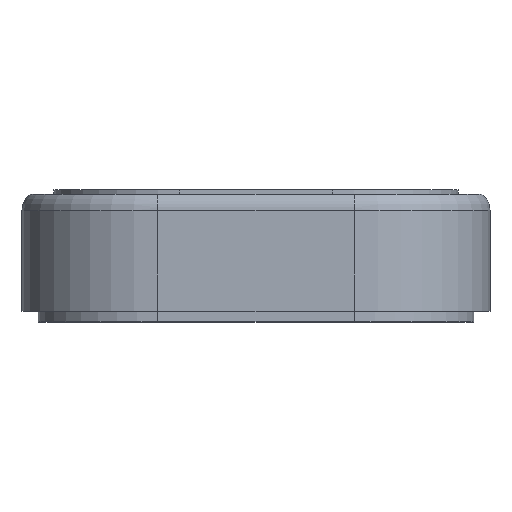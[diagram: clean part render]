
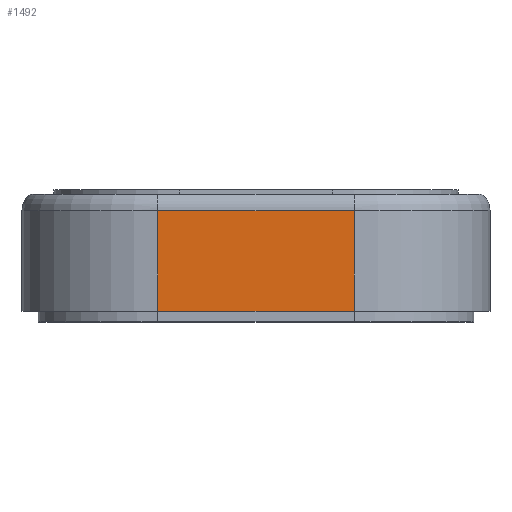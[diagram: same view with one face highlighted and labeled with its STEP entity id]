
A CAD part, front view. The second image highlights one B-rep face of the part: STEP entity #1492.
In plain terms, the highlighted planar face has unit normal (0, -1, 0).
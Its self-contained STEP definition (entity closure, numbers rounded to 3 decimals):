
#44 = CYLINDRICAL_SURFACE('',#45,24.8);
#45 = AXIS2_PLACEMENT_3D('',#46,#47,#48);
#46 = CARTESIAN_POINT('',(-18.,-42.,-13.2));
#47 = DIRECTION('',(0.,0.,1.));
#48 = DIRECTION('',(-1.,-0.,0.));
#72 = PLANE('',#73);
#73 = AXIS2_PLACEMENT_3D('',#74,#75,#76);
#74 = CARTESIAN_POINT('',(-100.,-110.,-9.));
#75 = DIRECTION('',(0.,0.,1.));
#76 = DIRECTION('',(1.,0.,-0.));
#373 = VERTEX_POINT('',#374);
#374 = CARTESIAN_POINT('',(-18.,-66.8,-9.));
#396 = EDGE_CURVE('',#373,#397,#399,.T.);
#397 = VERTEX_POINT('',#398);
#398 = CARTESIAN_POINT('',(-18.,-66.8,9.4));
#399 = SURFACE_CURVE('',#400,(#404,#411),.PCURVE_S1.);
#400 = LINE('',#401,#402);
#401 = CARTESIAN_POINT('',(-18.,-66.8,-13.2));
#402 = VECTOR('',#403,1.);
#403 = DIRECTION('',(0.,0.,1.));
#404 = PCURVE('',#44,#405);
#405 = DEFINITIONAL_REPRESENTATION('',(#406),#410);
#406 = LINE('',#407,#408);
#407 = CARTESIAN_POINT('',(1.571,0.));
#408 = VECTOR('',#409,1.);
#409 = DIRECTION('',(0.,1.));
#410 = ( GEOMETRIC_REPRESENTATION_CONTEXT(2) 
PARAMETRIC_REPRESENTATION_CONTEXT() REPRESENTATION_CONTEXT('2D SPACE',''
  ) );
#411 = PCURVE('',#412,#417);
#412 = PLANE('',#413);
#413 = AXIS2_PLACEMENT_3D('',#414,#415,#416);
#414 = CARTESIAN_POINT('',(-42.8,-66.8,-13.2));
#415 = DIRECTION('',(0.,1.,0.));
#416 = DIRECTION('',(0.,-0.,1.));
#417 = DEFINITIONAL_REPRESENTATION('',(#418),#422);
#418 = LINE('',#419,#420);
#419 = CARTESIAN_POINT('',(0.,24.8));
#420 = VECTOR('',#421,1.);
#421 = DIRECTION('',(1.,0.));
#422 = ( GEOMETRIC_REPRESENTATION_CONTEXT(2) 
PARAMETRIC_REPRESENTATION_CONTEXT() REPRESENTATION_CONTEXT('2D SPACE',''
  ) );
#508 = EDGE_CURVE('',#373,#509,#511,.T.);
#509 = VERTEX_POINT('',#510);
#510 = CARTESIAN_POINT('',(18.,-66.8,-9.));
#511 = SURFACE_CURVE('',#512,(#516,#523),.PCURVE_S1.);
#512 = LINE('',#513,#514);
#513 = CARTESIAN_POINT('',(-71.4,-66.8,-9.));
#514 = VECTOR('',#515,1.);
#515 = DIRECTION('',(1.,0.,0.));
#516 = PCURVE('',#72,#517);
#517 = DEFINITIONAL_REPRESENTATION('',(#518),#522);
#518 = LINE('',#519,#520);
#519 = CARTESIAN_POINT('',(28.6,43.2));
#520 = VECTOR('',#521,1.);
#521 = DIRECTION('',(1.,0.));
#522 = ( GEOMETRIC_REPRESENTATION_CONTEXT(2) 
PARAMETRIC_REPRESENTATION_CONTEXT() REPRESENTATION_CONTEXT('2D SPACE',''
  ) );
#523 = PCURVE('',#412,#524);
#524 = DEFINITIONAL_REPRESENTATION('',(#525),#529);
#525 = LINE('',#526,#527);
#526 = CARTESIAN_POINT('',(4.2,-28.6));
#527 = VECTOR('',#528,1.);
#528 = DIRECTION('',(0.,1.));
#529 = ( GEOMETRIC_REPRESENTATION_CONTEXT(2) 
PARAMETRIC_REPRESENTATION_CONTEXT() REPRESENTATION_CONTEXT('2D SPACE',''
  ) );
#548 = CYLINDRICAL_SURFACE('',#549,24.8);
#549 = AXIS2_PLACEMENT_3D('',#550,#551,#552);
#550 = CARTESIAN_POINT('',(18.,-42.,-13.2));
#551 = DIRECTION('',(0.,0.,1.));
#552 = DIRECTION('',(1.,0.,-0.));
#1492 = ADVANCED_FACE('',(#1493),#412,.F.);
#1493 = FACE_BOUND('',#1494,.F.);
#1494 = EDGE_LOOP('',(#1495,#1496,#1497,#1525));
#1495 = ORIENTED_EDGE('',*,*,#508,.F.);
#1496 = ORIENTED_EDGE('',*,*,#396,.T.);
#1497 = ORIENTED_EDGE('',*,*,#1498,.F.);
#1498 = EDGE_CURVE('',#1499,#397,#1501,.T.);
#1499 = VERTEX_POINT('',#1500);
#1500 = CARTESIAN_POINT('',(18.,-66.8,9.4));
#1501 = SURFACE_CURVE('',#1502,(#1506,#1513),.PCURVE_S1.);
#1502 = LINE('',#1503,#1504);
#1503 = CARTESIAN_POINT('',(18.,-66.8,9.4));
#1504 = VECTOR('',#1505,1.);
#1505 = DIRECTION('',(-1.,-0.,-0.));
#1506 = PCURVE('',#412,#1507);
#1507 = DEFINITIONAL_REPRESENTATION('',(#1508),#1512);
#1508 = LINE('',#1509,#1510);
#1509 = CARTESIAN_POINT('',(22.6,60.8));
#1510 = VECTOR('',#1511,1.);
#1511 = DIRECTION('',(0.,-1.));
#1512 = ( GEOMETRIC_REPRESENTATION_CONTEXT(2) 
PARAMETRIC_REPRESENTATION_CONTEXT() REPRESENTATION_CONTEXT('2D SPACE',''
  ) );
#1513 = PCURVE('',#1514,#1519);
#1514 = CYLINDRICAL_SURFACE('',#1515,3.8);
#1515 = AXIS2_PLACEMENT_3D('',#1516,#1517,#1518);
#1516 = CARTESIAN_POINT('',(18.,-63.,9.4));
#1517 = DIRECTION('',(-1.,-0.,-0.));
#1518 = DIRECTION('',(0.,-1.,0.));
#1519 = DEFINITIONAL_REPRESENTATION('',(#1520),#1524);
#1520 = LINE('',#1521,#1522);
#1521 = CARTESIAN_POINT('',(0.,0.));
#1522 = VECTOR('',#1523,1.);
#1523 = DIRECTION('',(0.,1.));
#1524 = ( GEOMETRIC_REPRESENTATION_CONTEXT(2) 
PARAMETRIC_REPRESENTATION_CONTEXT() REPRESENTATION_CONTEXT('2D SPACE',''
  ) );
#1525 = ORIENTED_EDGE('',*,*,#1526,.F.);
#1526 = EDGE_CURVE('',#509,#1499,#1527,.T.);
#1527 = SURFACE_CURVE('',#1528,(#1532,#1539),.PCURVE_S1.);
#1528 = LINE('',#1529,#1530);
#1529 = CARTESIAN_POINT('',(18.,-66.8,-13.2));
#1530 = VECTOR('',#1531,1.);
#1531 = DIRECTION('',(0.,0.,1.));
#1532 = PCURVE('',#412,#1533);
#1533 = DEFINITIONAL_REPRESENTATION('',(#1534),#1538);
#1534 = LINE('',#1535,#1536);
#1535 = CARTESIAN_POINT('',(0.,60.8));
#1536 = VECTOR('',#1537,1.);
#1537 = DIRECTION('',(1.,0.));
#1538 = ( GEOMETRIC_REPRESENTATION_CONTEXT(2) 
PARAMETRIC_REPRESENTATION_CONTEXT() REPRESENTATION_CONTEXT('2D SPACE',''
  ) );
#1539 = PCURVE('',#548,#1540);
#1540 = DEFINITIONAL_REPRESENTATION('',(#1541),#1545);
#1541 = LINE('',#1542,#1543);
#1542 = CARTESIAN_POINT('',(4.712,0.));
#1543 = VECTOR('',#1544,1.);
#1544 = DIRECTION('',(-0.,1.));
#1545 = ( GEOMETRIC_REPRESENTATION_CONTEXT(2) 
PARAMETRIC_REPRESENTATION_CONTEXT() REPRESENTATION_CONTEXT('2D SPACE',''
  ) );
